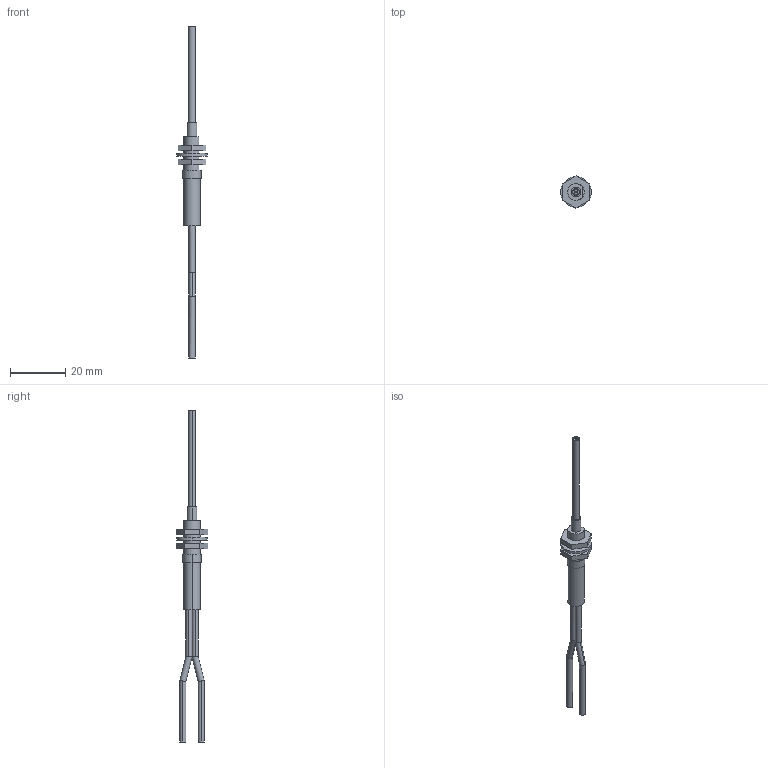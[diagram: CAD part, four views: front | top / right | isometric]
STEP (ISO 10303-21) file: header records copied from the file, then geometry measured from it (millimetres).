
FILE_DESCRIPTION (( 'STEP AP203' ), '1' );
FILE_NAME ('FD-FM2S4.STEP', '2005-09-04T09:32:00', ( '川島良英' ), ( ' ' ), 'SwSTEP 2.0', 'SolidWorks 2004251', '' );
FILE_SCHEMA (( 'CONFIG_CONTROL_DESIGN' ));
Length unit declared in the file: millimetre
Products named in the file (1): FD-FM2S4
Bounding box: 11 x 11.55 x 119.8 mm (x, y, z)
Volume: 1791.3 mm3; surface area: 2301.1 mm2
Topology: 4 solids, 4 shells, 62 faces, 138 edges, 92 vertices
Faces by surface type: cylinder 33, plane 29
Entity records: 1815 total; most frequent: CARTESIAN_POINT 341, DIRECTION 298, ORIENTED_EDGE 276, EDGE_CURVE 138, AXIS2_PLACEMENT_3D 113, VERTEX_POINT 92, EDGE_LOOP 76, VECTOR 72
